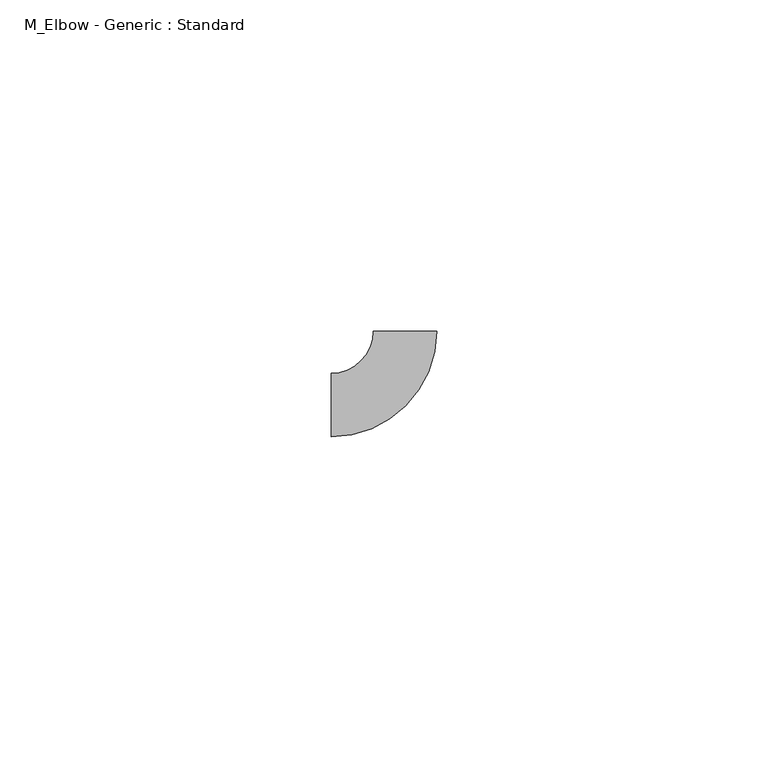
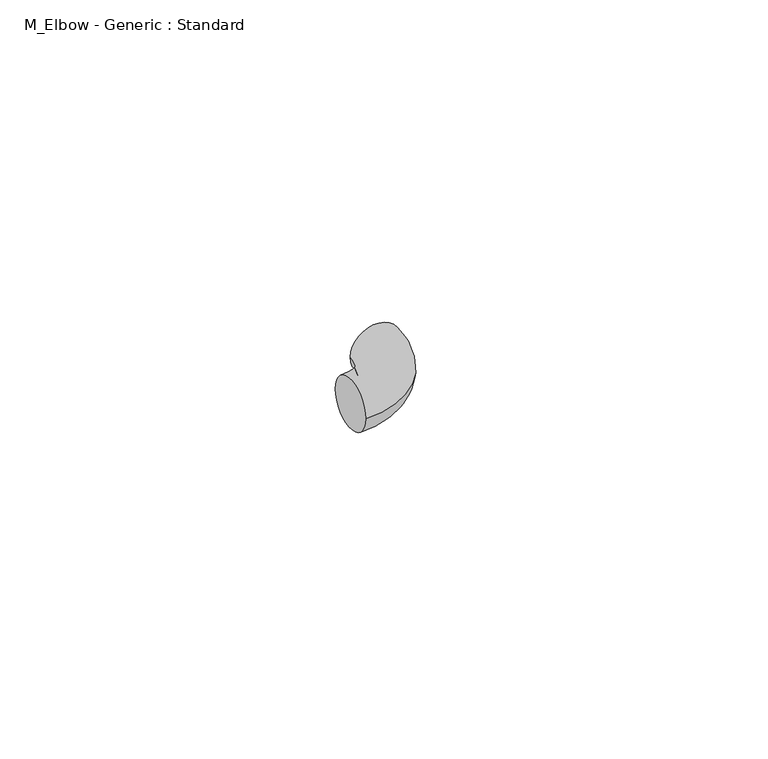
"""IFC4 building model written with IfcOpenShell, lengths in millimetres: pipe fitting geometry, M_Elbow - Generic : Standard."""

from ifc_helpers import new_model, si_unit, point, frame, origin, place, context, project, spatial, circle_curve, ellipse_curve, trimmed, source, transform, mapped, element, save
from ifc_brep_helpers import plane_surface, revolved_surface, advanced_brep


def m_elbow_generic_standard_a67d3ed8(model_context):
    return source(origin(), model_context, "Body", "AdvancedBrep", [
        advanced_brep(
        [(-11.1367716, -4.7875, 0.0), (-11.1367716, 4.7875, 0.0), (4.7882283, 11.1364585, 0.0), (-4.7867716, 11.1370847, 0.0)],
        [
            (0, 1, circle_curve(frame((-11.1367716, 0.0, 0.0), z_axis=(-1.0, 0.0, 0.0), x_axis=(0.0, 1.0, 0.0)), 4.7875)),
            (1, 0, circle_curve(frame((-11.1367716, 0.0, 0.0), z_axis=(-1.0, 0.0, 0.0), x_axis=(0.0, 1.0, 0.0)), 4.7875)),
            (2, 3, circle_curve(frame((0.0007283, 11.1367716, 0.0), z_axis=(6.540044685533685e-05, 0.9999999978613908, 0.0), x_axis=(-0.9999999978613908, 6.540044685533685e-05, 0.0)), 4.7875)),
            (3, 2, circle_curve(frame((0.0007283, 11.1367716, 0.0), z_axis=(6.540044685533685e-05, 0.9999999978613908, 0.0), x_axis=(-0.9999999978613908, 6.540044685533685e-05, 0.0)), 4.7875)),
            (3, 1, circle_curve(frame((-11.1367716, 11.1375, 0.0), z_axis=(0.0, 0.0, -1.0), x_axis=(0.0, -1.0, 0.0)), 6.35)),
            (0, 2, circle_curve(frame((-11.1367716, 11.1375, 0.0), z_axis=(0.0, 0.0, 1.0), x_axis=(0.0, -1.0, 0.0)), 15.925)),
        ],
        [
            plane_surface(frame((-11.1367716, 0.0, 0.0), z_axis=(-1.0, 0.0, 0.0), x_axis=(0.0, 0.0, 1.0))),
            plane_surface(frame((0.0007283, 11.1367716, 0.0), z_axis=(6.540044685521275e-05, 0.9999999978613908, 0.0), x_axis=(0.0, 0.0, 1.0))),
            revolved_surface(trimmed(ellipse_curve(frame((-11.1367716, 0.0, 0.0), z_axis=(-1.0, 0.0, 0.0), x_axis=(0.0, 1.0, 0.0)), 4.7875, 4.7875), [point((-11.1367716, -4.7875, 0.0))], [point((-11.1367716, 4.7875, 0.0))], True, "CARTESIAN"), (-11.1367716, 11.1375, 0.0), (0.0, 0.0, 1.0)),
            revolved_surface(trimmed(ellipse_curve(frame((-11.1367716, 0.0, 0.0), z_axis=(-1.0, 0.0, 0.0), x_axis=(0.0, 1.0, 0.0)), 4.7875, 4.7875), [point((-11.1367716, 4.7875, 0.0))], [point((-11.1367716, -4.7875, 0.0))], True, "CARTESIAN"), (-11.1367716, 11.1375, 0.0), (0.0, 0.0, 1.0)),
        ],
        [
            (0, [[1, 2]]),
            (1, [[3, 4]]),
            (2, [[5, -1, 6, -4]]),
            (3, [[-6, -2, -5, -3]]),
        ],
    ),
    ])


if __name__ == "__main__":
    model = new_model("IFC4")
    model_context = context("Model", 3, world=origin())
    ifc_project = project(units=[si_unit("LENGTHUNIT", "METRE", prefix="MILLI")], contexts=[model_context])
    site = spatial("IfcSite", under=ifc_project)
    building = spatial("IfcBuilding", under=site)
    placement = place(None, origin())
    m_elbow_generic_standard_shape = m_elbow_generic_standard_a67d3ed8(model_context)
    element("IfcPipeFitting", 1, ObjectType="M_Elbow - Generic : Standard", at=placement, inside=building, context=model_context, shape_type="MappedRepresentation", body=[
        mapped(m_elbow_generic_standard_shape, transform((0.0, 0.0, 0.0), x_axis=(1.0, 0.0, 0.0), y_axis=(0.0, 1.0, 0.0), z_axis=(0.0, 0.0, 1.0))),
    ])
    save(model, "model.ifc")
